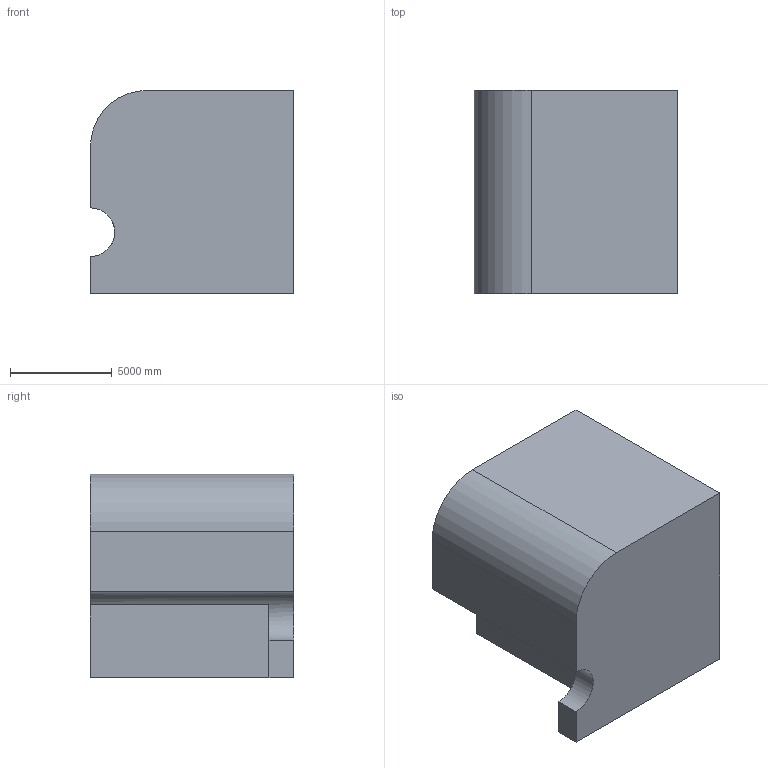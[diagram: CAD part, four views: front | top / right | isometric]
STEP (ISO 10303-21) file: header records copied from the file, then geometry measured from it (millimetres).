
FILE_DESCRIPTION (( 'STEP AP203' ), '1' );
FILE_NAME ('297.STEP', '2022-07-28T14:14:54', ( 'user' ), ( '' ), 'SwSTEP 2.0', 'SolidWorks 2021', '' );
FILE_SCHEMA (( 'CONFIG_CONTROL_DESIGN' ));
Length unit declared in the file: centimetre
Products named in the file (1): 297
Bounding box: 10000 x 10000 x 10000 mm (x, y, z)
Volume: 879336571947.7 mm3; surface area: 578210311.9 mm2
Topology: 1 solids, 1 shells, 12 faces, 30 edges, 20 vertices
Faces by surface type: plane 10, cylinder 2
Entity records: 436 total; most frequent: CARTESIAN_POINT 63, DIRECTION 61, ORIENTED_EDGE 60, EDGE_CURVE 30, VECTOR 25, LINE 25, VERTEX_POINT 20, AXIS2_PLACEMENT_3D 18
